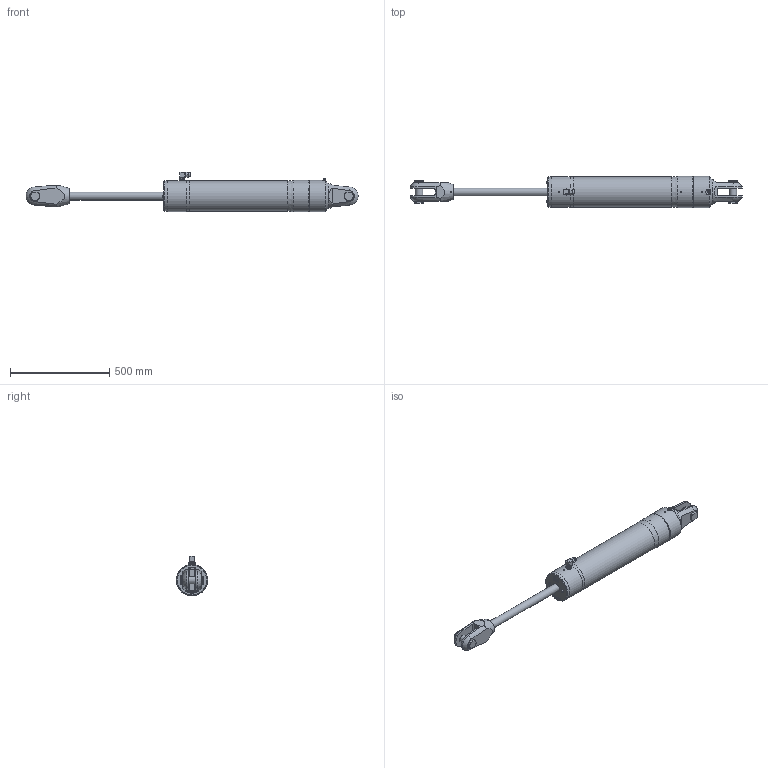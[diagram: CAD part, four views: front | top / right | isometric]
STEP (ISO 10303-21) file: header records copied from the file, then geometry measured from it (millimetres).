
FILE_DESCRIPTION(/* description */ (''),/* implementation_level */ '2;1');
FILE_NAME(/* name */ 'Q:\AA BRAND HYDRAULICS\HYDRAULICS FAMILY DIRECTORY\HYDRAULICS\CYLINDERS\RAMS\STAINLESS - STANDARD SINGLE ACTING (-0006 To -0260)\RSS-0115-S0475-NP-71\RSS-0115-S0475-NP-71 (Open).stp',/* time_stamp */ '2018-02-07T17:16:58+00:00',/* author */ ('Lorena'),/* organization */ (''),/* preprocessor_version */ 'ST-DEVELOPER v17',/* originating_system */ 'Autodesk Inventor 2018',/* authorisation */ '');
FILE_SCHEMA (('AUTOMOTIVE_DESIGN { 1 0 10303 214 3 1 1 }'));
Length unit declared in the file: millimetre
Products named in the file (1): RSS-0115-S0475-NP-71 (Open)
Bounding box: 1668.84 x 157.4 x 198.3 mm (x, y, z)
Volume: 18119122.2 mm3; surface area: 663835.1 mm2
Topology: 2 solids, 4 shells, 1775 faces, 4792 edges, 3172 vertices
Faces by surface type: plane 1008, bspline 574, cone 110, cylinder 75, torus 4, sphere 4
Full cylindrical faces by diameter (mm): 4 x1, 4.134 x1, 4.2 x1, 5 x2, 7 x1, 9 x1, 9.9 x1, 10 x2, 11.1 x1, 18.9 x1, 19 x2, 19.11 x1, 19.9 x1, 20 x1, 20.9 x2, 22 x2, 24 x2, 27.8 x3, 30 x1, 38.1 x2, 40 x1, 47 x1, 47.625 x2, 150.8 x1, 152.4 x1, 155.4 x1, 156.4 x1, 157.4 x2
Entity records: 63047 total; most frequent: CARTESIAN_POINT 20871, ORIENTED_EDGE 9570, DIRECTION 6268, EDGE_CURVE 4785, VERTEX_POINT 3174, LINE 2968, VECTOR 2968, EDGE_LOOP 1939
